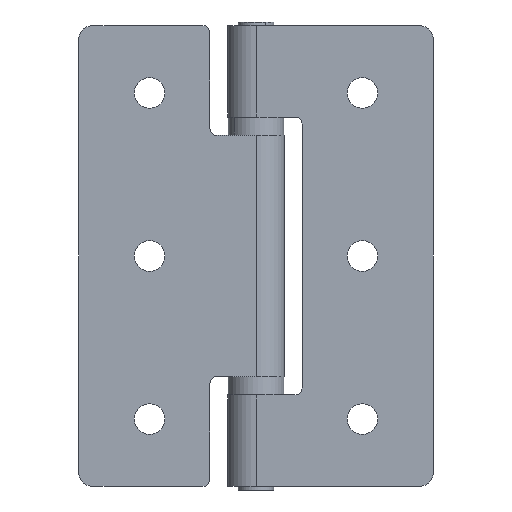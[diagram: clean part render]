
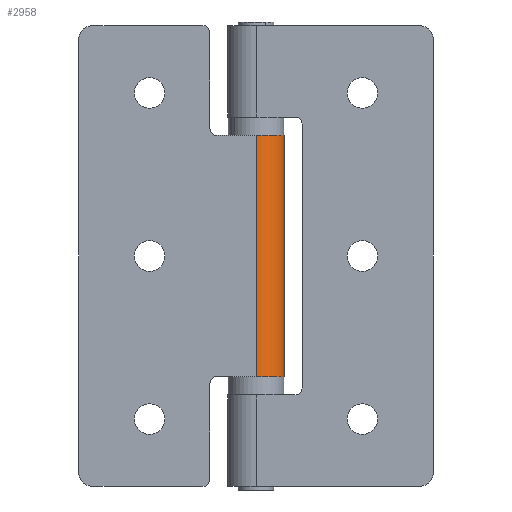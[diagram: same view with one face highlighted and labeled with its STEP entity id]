
A CAD part, front view. The second image highlights one B-rep face of the part: STEP entity #2958.
In plain terms, the highlighted cylindrical face has radius 4 mm (diameter 8 mm), a partial arc.
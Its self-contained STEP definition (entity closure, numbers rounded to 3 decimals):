
#36 = VECTOR ( 'NONE', #2643, 1000. ) ;
#61 = CIRCLE ( 'NONE', #96, 4. ) ;
#96 = AXIS2_PLACEMENT_3D ( 'NONE', #2608, #2585, #2566 ) ;
#100 = VECTOR ( 'NONE', #2582, 1000. ) ;
#101 = CIRCLE ( 'NONE', #116, 4. ) ;
#116 = AXIS2_PLACEMENT_3D ( 'NONE', #2628, #2551, #2622 ) ;
#167 = DIRECTION ( 'NONE',  ( 0., 0., -1. ) ) ;
#232 = CARTESIAN_POINT ( 'NONE',  ( 0., 0., 32.5 ) ) ;
#249 = DIRECTION ( 'NONE',  ( -1., 0., 0. ) ) ;
#389 = CARTESIAN_POINT ( 'NONE',  ( -4., 0., -17. ) ) ;
#426 = CARTESIAN_POINT ( 'NONE',  ( 0., -4., 17. ) ) ;
#430 = CARTESIAN_POINT ( 'NONE',  ( 0., -4., -17. ) ) ;
#542 = CARTESIAN_POINT ( 'NONE',  ( -4., 0., 17. ) ) ;
#650 = CYLINDRICAL_SURFACE ( 'NONE', #1922, 4. ) ;
#704 = FACE_OUTER_BOUND ( 'NONE', #2080, .T. ) ;
#1195 = EDGE_CURVE ( 'NONE', #2754, #2794, #2089, .T. ) ;
#1197 = EDGE_CURVE ( 'NONE', #2807, #2754, #61, .T. ) ;
#1223 = EDGE_CURVE ( 'NONE', #2807, #2738, #2028, .T. ) ;
#1226 = EDGE_CURVE ( 'NONE', #2794, #2738, #101, .T. ) ;
#1922 = AXIS2_PLACEMENT_3D ( 'NONE', #232, #167, #249 ) ;
#2028 = LINE ( 'NONE', #2427, #100 ) ;
#2080 = EDGE_LOOP ( 'NONE', ( #2804, #2730, #2781, #2848 ) ) ;
#2089 = LINE ( 'NONE', #2489, #36 ) ;
#2427 = CARTESIAN_POINT ( 'NONE',  ( 0., -4., 32.5 ) ) ;
#2489 = CARTESIAN_POINT ( 'NONE',  ( -4., 0., 32.5 ) ) ;
#2551 = DIRECTION ( 'NONE',  ( 0., 0., 1. ) ) ;
#2566 = DIRECTION ( 'NONE',  ( -1., 0., 0. ) ) ;
#2582 = DIRECTION ( 'NONE',  ( 0., 0., -1. ) ) ;
#2585 = DIRECTION ( 'NONE',  ( 0., 0., -1. ) ) ;
#2608 = CARTESIAN_POINT ( 'NONE',  ( 0., 0., 17. ) ) ;
#2622 = DIRECTION ( 'NONE',  ( 1., 0., 0. ) ) ;
#2628 = CARTESIAN_POINT ( 'NONE',  ( 0., 0., -17. ) ) ;
#2643 = DIRECTION ( 'NONE',  ( 0., 0., -1. ) ) ;
#2730 = ORIENTED_EDGE ( 'NONE', *, *, #1195, .T. ) ;
#2738 = VERTEX_POINT ( 'NONE', #430 ) ;
#2754 = VERTEX_POINT ( 'NONE', #542 ) ;
#2781 = ORIENTED_EDGE ( 'NONE', *, *, #1226, .T. ) ;
#2794 = VERTEX_POINT ( 'NONE', #389 ) ;
#2804 = ORIENTED_EDGE ( 'NONE', *, *, #1197, .T. ) ;
#2807 = VERTEX_POINT ( 'NONE', #426 ) ;
#2848 = ORIENTED_EDGE ( 'NONE', *, *, #1223, .F. ) ;
#2958 = ADVANCED_FACE ( 'NONE', ( #704 ), #650, .T. ) ;
